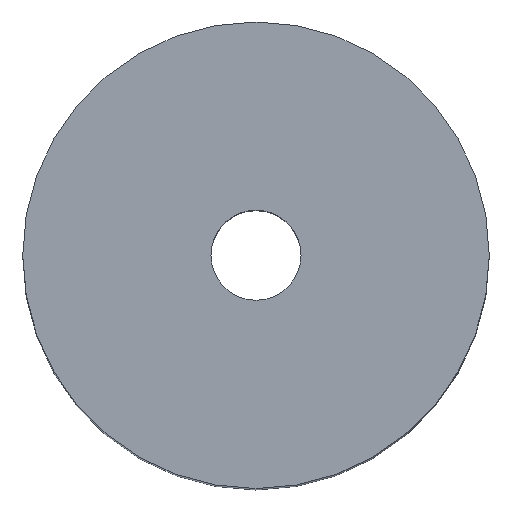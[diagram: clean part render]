
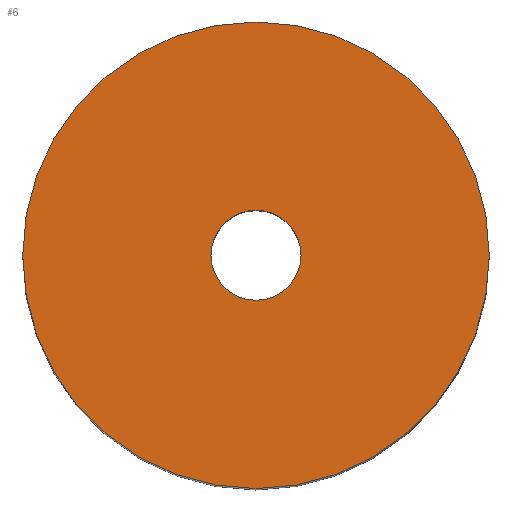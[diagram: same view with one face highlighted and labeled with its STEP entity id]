
A CAD part, top view. The second image highlights one B-rep face of the part: STEP entity #6.
In plain terms, the highlighted planar face has unit normal (0, 0, 1).
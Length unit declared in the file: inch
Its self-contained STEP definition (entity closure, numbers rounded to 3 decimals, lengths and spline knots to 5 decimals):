
#6 = ADVANCED_FACE ( 'NONE', ( #36, #210 ), #23, .F. ) ;
#11 = EDGE_LOOP ( 'NONE', ( #317, #176 ) ) ;
#23 = PLANE ( 'NONE',  #34 ) ;
#34 = AXIS2_PLACEMENT_3D ( 'NONE', #289, #108, #326 ) ;
#36 = FACE_OUTER_BOUND ( 'NONE', #11, .T. ) ;
#61 = DIRECTION ( 'NONE',  ( 0., 0., -1. ) ) ;
#91 = CARTESIAN_POINT ( 'NONE',  ( 0., 0., 0. ) ) ;
#103 = AXIS2_PLACEMENT_3D ( 'NONE', #140, #358, #167 ) ;
#108 = DIRECTION ( 'NONE',  ( 0., 0., -1. ) ) ;
#113 = DIRECTION ( 'NONE',  ( 0., 0., 1. ) ) ;
#120 = DIRECTION ( 'NONE',  ( 1., 0., 0. ) ) ;
#131 = EDGE_CURVE ( 'NONE', #215, #138, #306, .T. ) ;
#138 = VERTEX_POINT ( 'NONE', #295 ) ;
#140 = CARTESIAN_POINT ( 'NONE',  ( 0., 0., 0. ) ) ;
#144 = AXIS2_PLACEMENT_3D ( 'NONE', #297, #113, #331 ) ;
#152 = EDGE_CURVE ( 'NONE', #138, #215, #378, .T. ) ;
#154 = VERTEX_POINT ( 'NONE', #328 ) ;
#167 = DIRECTION ( 'NONE',  ( 1., 0., 0. ) ) ;
#176 = ORIENTED_EDGE ( 'NONE', *, *, #214, .F. ) ;
#210 = FACE_BOUND ( 'NONE', #225, .T. ) ;
#211 = CIRCLE ( 'NONE', #222, 0.3525 ) ;
#214 = EDGE_CURVE ( 'NONE', #154, #219, #211, .T. ) ;
#215 = VERTEX_POINT ( 'NONE', #332 ) ;
#219 = VERTEX_POINT ( 'NONE', #231 ) ;
#222 = AXIS2_PLACEMENT_3D ( 'NONE', #234, #61, #265 ) ;
#225 = EDGE_LOOP ( 'NONE', ( #252, #310 ) ) ;
#231 = CARTESIAN_POINT ( 'NONE',  ( 0.3525, 0., 0. ) ) ;
#234 = CARTESIAN_POINT ( 'NONE',  ( 0., 0., 0. ) ) ;
#252 = ORIENTED_EDGE ( 'NONE', *, *, #152, .F. ) ;
#263 = CIRCLE ( 'NONE', #337, 0.3525 ) ;
#265 = DIRECTION ( 'NONE',  ( 1., 0., 0. ) ) ;
#276 = EDGE_CURVE ( 'NONE', #219, #154, #263, .T. ) ;
#289 = CARTESIAN_POINT ( 'NONE',  ( 0., 0., 0. ) ) ;
#295 = CARTESIAN_POINT ( 'NONE',  ( 0.068, 0., 0. ) ) ;
#297 = CARTESIAN_POINT ( 'NONE',  ( 0., 0., 0. ) ) ;
#301 = DIRECTION ( 'NONE',  ( 0., 0., -1. ) ) ;
#306 = CIRCLE ( 'NONE', #103, 0.068 ) ;
#310 = ORIENTED_EDGE ( 'NONE', *, *, #131, .F. ) ;
#317 = ORIENTED_EDGE ( 'NONE', *, *, #276, .F. ) ;
#326 = DIRECTION ( 'NONE',  ( -1., 0., 0. ) ) ;
#328 = CARTESIAN_POINT ( 'NONE',  ( -0.3525, 0., 0. ) ) ;
#331 = DIRECTION ( 'NONE',  ( 1., 0., 0. ) ) ;
#332 = CARTESIAN_POINT ( 'NONE',  ( -0.068, 0., 0. ) ) ;
#337 = AXIS2_PLACEMENT_3D ( 'NONE', #91, #301, #120 ) ;
#358 = DIRECTION ( 'NONE',  ( 0., 0., 1. ) ) ;
#378 = CIRCLE ( 'NONE', #144, 0.068 ) ;
